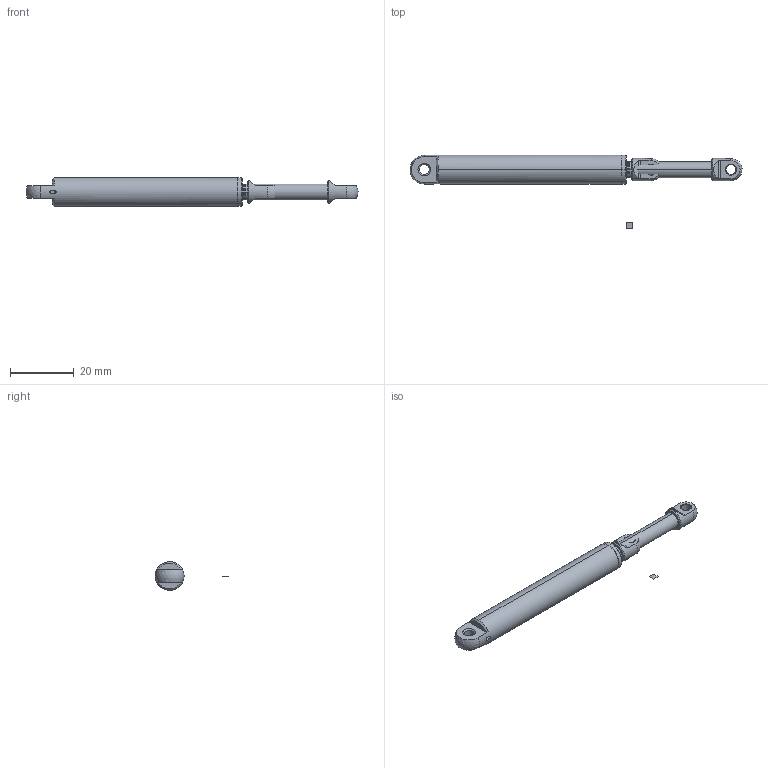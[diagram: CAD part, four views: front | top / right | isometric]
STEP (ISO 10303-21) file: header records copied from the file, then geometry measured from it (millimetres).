
FILE_DESCRIPTION((''),'2;1');
FILE_NAME('KT0905-25','2024-08-20T19:56:29',('qun.dong'),(''),'CREO PARAMETRIC BY PTC INC, 2019164','CREO PARAMETRIC BY PTC INC, 2019164','');
FILE_SCHEMA(('CONFIG_CONTROL_DESIGN','SHAPE_APPEARANCE_LAYERS_GROUPS'));
Length unit declared in the file: millimetre
Products named in the file (1): KT0905-25
Bounding box: 103.94 x 23 x 9 mm (x, y, z)
Volume: 4181.6 mm3; surface area: 3309.1 mm2
Topology: 1 solids, 6 shells, 143 faces, 379 edges, 242 vertices
Faces by surface type: cylinder 69, cone 35, plane 31, sphere 4, bspline 4
Entity records: 8400 total; most frequent: CARTESIAN_POINT 3902, ORIENTED_EDGE 734, DIRECTION 674, EDGE_CURVE 371, COLOUR_RGB 313, AXIS2_PLACEMENT_3D 268, VERTEX_POINT 242, EDGE_LOOP 158
